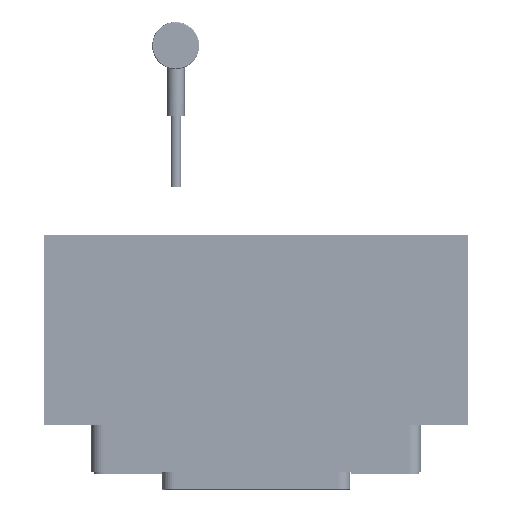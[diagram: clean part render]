
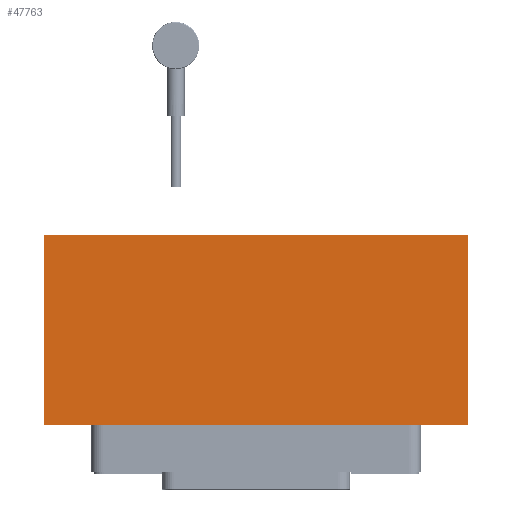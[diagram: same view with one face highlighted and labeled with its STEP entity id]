
A CAD part, top view. The second image highlights one B-rep face of the part: STEP entity #47763.
In plain terms, the highlighted planar face has unit normal (0, 0, 1) as drawn and (0, -1, 0) by its records, which use the part's own axes.
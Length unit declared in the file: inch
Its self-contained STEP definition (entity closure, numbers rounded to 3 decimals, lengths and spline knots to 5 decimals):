
#97 = DIRECTION ( 'NONE',  ( 0., 0., 1. ) ) ;
#6355 = EDGE_LOOP ( 'NONE', ( #76588, #96400, #89971, #57194 ) ) ;
#9774 = EDGE_CURVE ( 'NONE', #78256, #61345, #76717, .T. ) ;
#12564 = CARTESIAN_POINT ( 'NONE',  ( 2.25, 0., 1.75 ) ) ;
#13943 = LINE ( 'NONE', #78479, #72964 ) ;
#14344 = EDGE_CURVE ( 'NONE', #31706, #101276, #18859, .T. ) ;
#17231 = DIRECTION ( 'NONE',  ( 1., 0., 0. ) ) ;
#17947 = CARTESIAN_POINT ( 'NONE',  ( -2.25, 0., 1.75 ) ) ;
#18859 = LINE ( 'NONE', #12564, #99946 ) ;
#25062 = LINE ( 'NONE', #80753, #100847 ) ;
#31706 = VERTEX_POINT ( 'NONE', #41470 ) ;
#33080 = PLANE ( 'NONE',  #72521 ) ;
#41470 = CARTESIAN_POINT ( 'NONE',  ( 2.25, 0., 1.75 ) ) ;
#45456 = CARTESIAN_POINT ( 'NONE',  ( -2.25, 0., 1.75 ) ) ;
#47763 = ADVANCED_FACE ( 'NONE', ( #88791 ), #33080, .T. ) ;
#57194 = ORIENTED_EDGE ( 'NONE', *, *, #9774, .F. ) ;
#61345 = VERTEX_POINT ( 'NONE', #17947 ) ;
#63879 = CARTESIAN_POINT ( 'NONE',  ( 0., 0., 0. ) ) ;
#71329 = CARTESIAN_POINT ( 'NONE',  ( -2.25, 0., -0.2722 ) ) ;
#72176 = DIRECTION ( 'NONE',  ( 0., 0., -1. ) ) ;
#72521 = AXIS2_PLACEMENT_3D ( 'NONE', #63879, #88291, #72176 ) ;
#72964 = VECTOR ( 'NONE', #92609, 39.37008 ) ;
#76098 = DIRECTION ( 'NONE',  ( 0., 0., -1. ) ) ;
#76521 = EDGE_CURVE ( 'NONE', #61345, #31706, #25062, .T. ) ;
#76588 = ORIENTED_EDGE ( 'NONE', *, *, #95293, .T. ) ;
#76717 = LINE ( 'NONE', #45456, #93657 ) ;
#78256 = VERTEX_POINT ( 'NONE', #71329 ) ;
#78479 = CARTESIAN_POINT ( 'NONE',  ( -2.25, 0., -0.2722 ) ) ;
#80753 = CARTESIAN_POINT ( 'NONE',  ( -2.25, 0., 1.75 ) ) ;
#88291 = DIRECTION ( 'NONE',  ( 0., -1., 0. ) ) ;
#88791 = FACE_OUTER_BOUND ( 'NONE', #6355, .T. ) ;
#89971 = ORIENTED_EDGE ( 'NONE', *, *, #76521, .F. ) ;
#92609 = DIRECTION ( 'NONE',  ( 1., 0., 0. ) ) ;
#93657 = VECTOR ( 'NONE', #97, 39.37008 ) ;
#95293 = EDGE_CURVE ( 'NONE', #78256, #101276, #13943, .T. ) ;
#96400 = ORIENTED_EDGE ( 'NONE', *, *, #14344, .F. ) ;
#99246 = CARTESIAN_POINT ( 'NONE',  ( 2.25, 0., -0.2722 ) ) ;
#99946 = VECTOR ( 'NONE', #76098, 39.37008 ) ;
#100847 = VECTOR ( 'NONE', #17231, 39.37008 ) ;
#101276 = VERTEX_POINT ( 'NONE', #99246 ) ;
